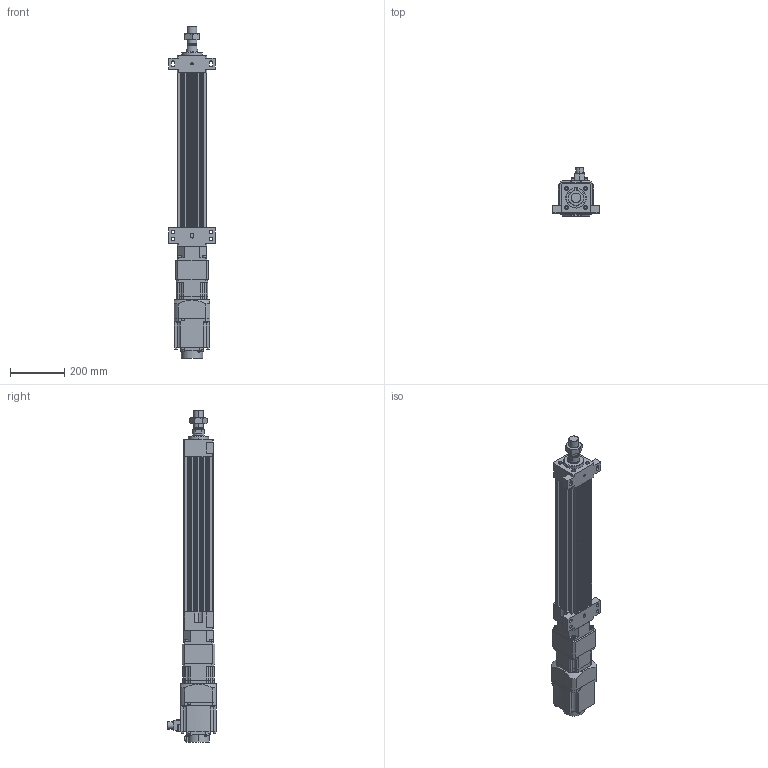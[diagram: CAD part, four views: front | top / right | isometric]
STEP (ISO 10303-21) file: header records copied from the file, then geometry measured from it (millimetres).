
FILE_DESCRIPTION (( 'STEP AP203' ), '1' );
FILE_NAME ('HES110NS(HS)-S400-W015G00-M-FFB.STEP', '2023-01-27T12:02:53', ( 'tms' ), ( '' ), 'SwSTEP 2.0', 'SolidWorks 2013', '' );
FILE_SCHEMA (( 'CONFIG_CONTROL_DESIGN' ));
Length unit declared in the file: millimetre
Products named in the file (8): AB1151; HES110 ROD M ST400; P0401400706; HG-SR152; HES110-S400-G120-FFB; M36X1.5P; AB115-003[HG-SR152]; HES110NS(HS)-S400-W015G00-M-FFB
Assembly tree (7 placements, depth 3):
  HES110NS(HS)-S400-W015G00-M-FFB
    HES110-S400-G120-FFB
    HES110 ROD M ST400
    AB115-003[HG-SR152]
      AB1151
      P0401400706
    HG-SR152
    M36X1.5P
Bounding box: 170 x 177.49 x 1221.5 mm (x, y, z)
Volume: 7915773.5 mm3; surface area: 1101529.6 mm2
Topology: 4 solids, 15 shells, 1194 faces, 3023 edges, 1968 vertices
Faces by surface type: plane 571, cylinder 531, cone 80, bspline 8, torus 4
Entity records: 37745 total; most frequent: CARTESIAN_POINT 7162, DIRECTION 6520, ORIENTED_EDGE 5998, EDGE_CURVE 3009, AXIS2_PLACEMENT_3D 2386, VERTEX_POINT 1968, LINE 1748, VECTOR 1748
